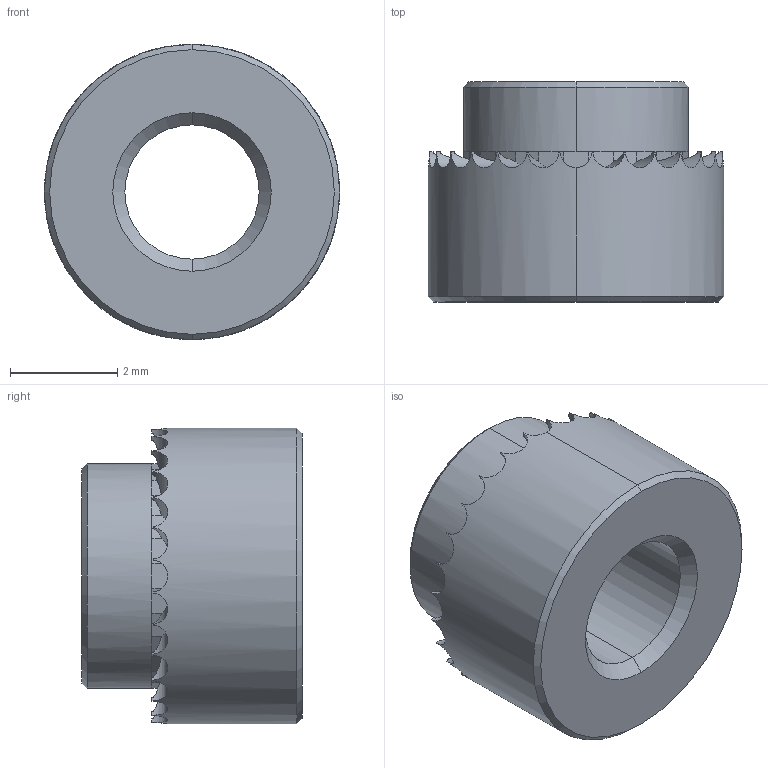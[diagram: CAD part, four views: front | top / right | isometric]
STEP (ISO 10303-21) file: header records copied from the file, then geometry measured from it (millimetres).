
FILE_DESCRIPTION (( 'STEP AP203' ), '1' );
FILE_NAME ('P0829.025-22G-ZP.step', '2019-03-21T22:10:43', ( '' ), ( '' ), 'SwSTEP 2.0', 'SolidWorks 2017', '' );
FILE_SCHEMA (( 'CONFIG_CONTROL_DESIGN' ));
Length unit declared in the file: millimetre
Products named in the file (1): P0829.025-22G-ZP
Bounding box: 5.5 x 4.1 x 5.5 mm (x, y, z)
Volume: 61.3 mm3; surface area: 134.2 mm2
Topology: 1 solids, 1 shells, 128 faces, 312 edges, 186 vertices
Faces by surface type: plane 86, cylinder 34, cone 8
Entity records: 3963 total; most frequent: CARTESIAN_POINT 965, ORIENTED_EDGE 624, DIRECTION 612, EDGE_CURVE 312, AXIS2_PLACEMENT_3D 229, VERTEX_POINT 186, VECTOR 154, LINE 154
